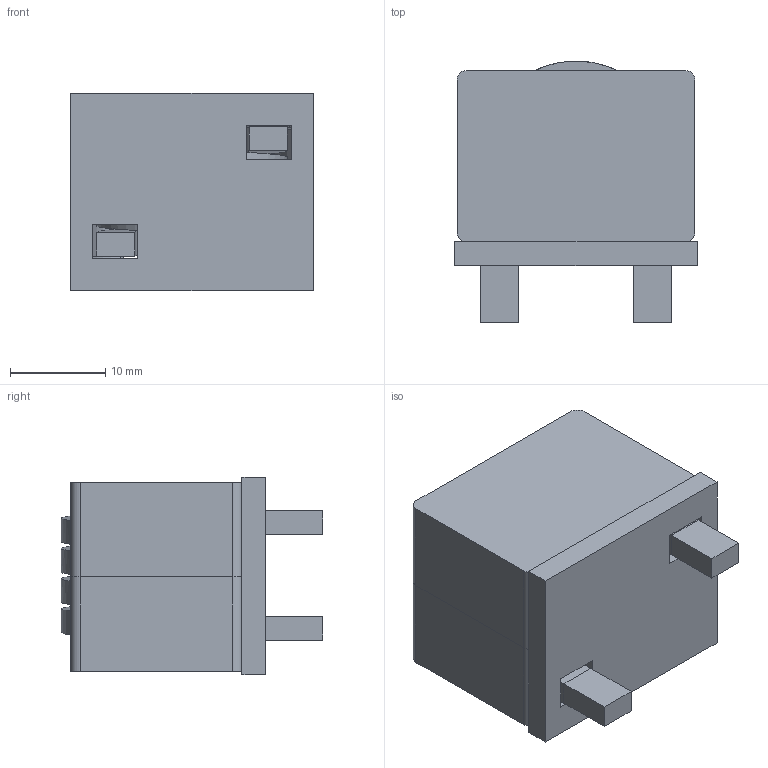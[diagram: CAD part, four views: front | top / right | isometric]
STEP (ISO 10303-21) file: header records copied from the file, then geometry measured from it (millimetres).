
FILE_DESCRIPTION (( 'STEP AP214' ), '1' );
FILE_NAME ('IHDM1008BCEB2R1MVA.STEP', '2018-12-06T16:28:52', ( '' ), ( '' ), 'SwSTEP 2.0', 'SolidWorks 2018', '' );
FILE_SCHEMA (( 'AUTOMOTIVE_DESIGN' ));
Length unit declared in the file: millimetre
Products named in the file (4): header with locate fixture_No Draft or Fillet; IHDM-1008BC-TA Coil 4 turn; RK2518; IHDM1008BCEB2R1MVA
Assembly tree (4 placements, depth 2):
  IHDM1008BCEB2R1MVA
    RK2518  x2
    IHDM-1008BC-TA Coil 4 turn
    header with locate fixture_No Draft or Fillet
Bounding box: 25.53 x 27.5 x 20.73 mm (x, y, z)
Volume: 8354.6 mm3; surface area: 8070.8 mm2
Topology: 4 solids, 4 shells, 123 faces, 298 edges, 180 vertices
Faces by surface type: plane 67, cylinder 32, torus 16, bspline 8
Entity records: 3826 total; most frequent: CARTESIAN_POINT 1411, DIRECTION 416, ORIENTED_EDGE 412, EDGE_CURVE 206, VECTOR 154, LINE 154, AXIS2_PLACEMENT_3D 131, VERTEX_POINT 126
